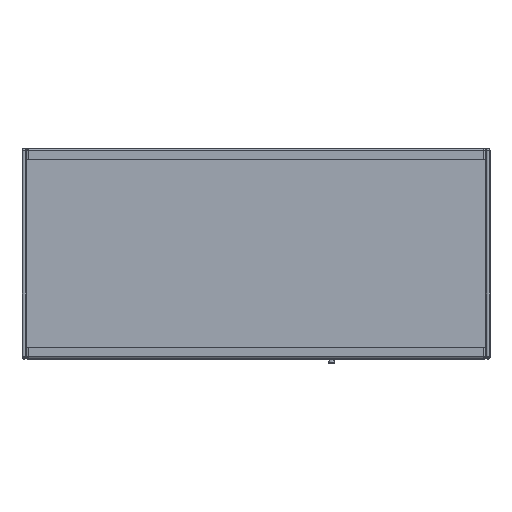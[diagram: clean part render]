
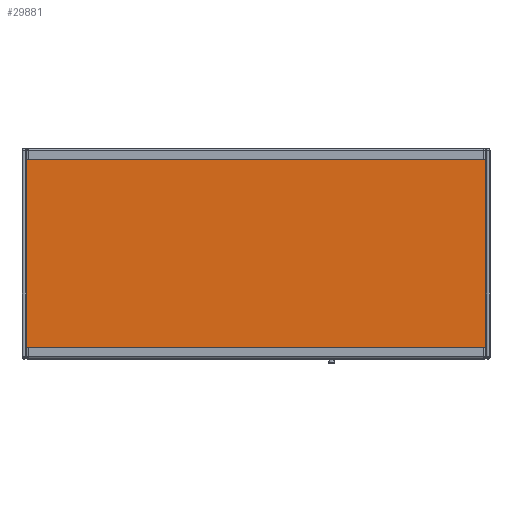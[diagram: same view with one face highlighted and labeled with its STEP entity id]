
A CAD part, top view. The second image highlights one B-rep face of the part: STEP entity #29881.
In plain terms, the highlighted planar face has unit normal (0, 0, 1).
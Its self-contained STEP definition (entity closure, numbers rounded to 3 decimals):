
#3539=FACE_OUTER_BOUND('',#5369,.T.);
#5369=EDGE_LOOP('',(#20107,#20108,#20109,#20110));
#7331=LINE('',#43270,#10094);
#7335=LINE('',#43279,#10098);
#7339=LINE('',#43286,#10102);
#7341=LINE('',#43289,#10104);
#10094=VECTOR('',#35093,10.);
#10098=VECTOR('',#35099,10.);
#10102=VECTOR('',#35105,10.);
#10104=VECTOR('',#35109,10.);
#12857=VERTEX_POINT('',#43268);
#12858=VERTEX_POINT('',#43269);
#12861=VERTEX_POINT('',#43277);
#12862=VERTEX_POINT('',#43278);
#15692=EDGE_CURVE('',#12857,#12858,#7331,.T.);
#15696=EDGE_CURVE('',#12861,#12862,#7335,.T.);
#15700=EDGE_CURVE('',#12861,#12858,#7339,.T.);
#15702=EDGE_CURVE('',#12857,#12862,#7341,.T.);
#20107=ORIENTED_EDGE('',*,*,#15700,.T.);
#20108=ORIENTED_EDGE('',*,*,#15692,.F.);
#20109=ORIENTED_EDGE('',*,*,#15702,.T.);
#20110=ORIENTED_EDGE('',*,*,#15696,.F.);
#28893=PLANE('',#32381);
#29881=ADVANCED_FACE('',(#3539),#28893,.T.);
#32381=AXIS2_PLACEMENT_3D('',#43291,#35111,#35112);
#35093=DIRECTION('',(0.,1.,0.));
#35099=DIRECTION('',(0.,-1.,0.));
#35105=DIRECTION('',(-1.,0.,0.));
#35109=DIRECTION('',(1.,0.,0.));
#35111=DIRECTION('center_axis',(0.,0.,
1.));
#35112=DIRECTION('ref_axis',(-1.,0.,0.));
#43268=CARTESIAN_POINT('',(-30.,45.,2263.));
#43269=CARTESIAN_POINT('',(-30.,965.,2263.));
#43270=CARTESIAN_POINT('',(-30.,965.,2263.));
#43277=CARTESIAN_POINT('',(2226.,965.,2263.));
#43278=CARTESIAN_POINT('',(2226.,45.,2263.));
#43279=CARTESIAN_POINT('',(2226.,45.,2263.));
#43286=CARTESIAN_POINT('',(1092.,965.,2263.));
#43289=CARTESIAN_POINT('',(1092.,45.,2263.));
#43291=CARTESIAN_POINT('Origin',(546.,505.,2263.));
